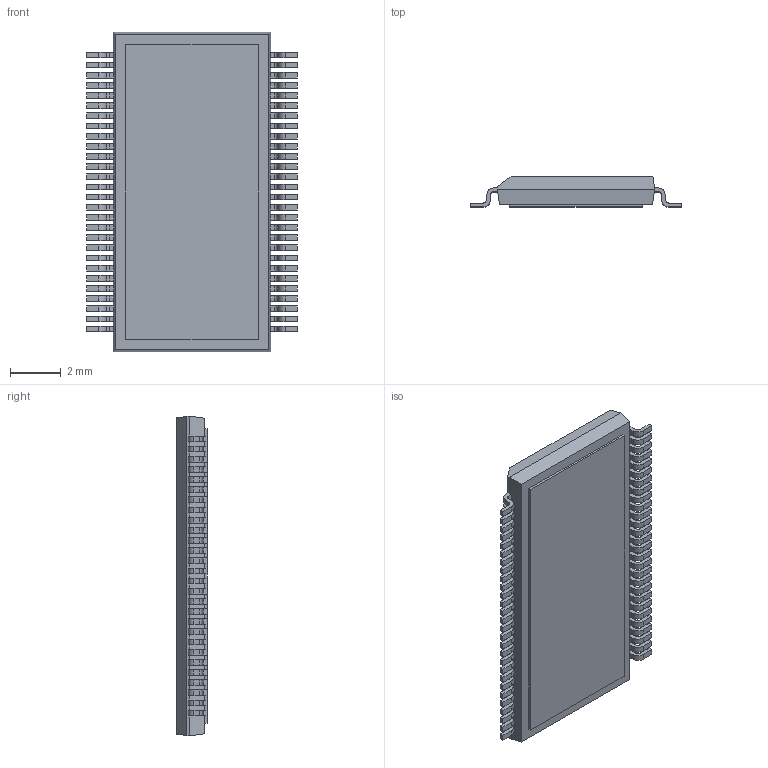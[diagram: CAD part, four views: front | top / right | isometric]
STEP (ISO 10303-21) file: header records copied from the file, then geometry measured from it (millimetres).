
FILE_DESCRIPTION (( 'STEP AP214' ), '1' );
FILE_NAME ('TSSOP40P810X120-56TP_MO-153.FDT.STEP', '2014-10-29T08:25:53', ( 'Tester2' ), ( '' ), 'SwSTEP 2.0', 'SolidWorks 2012', '' );
FILE_SCHEMA (( 'AUTOMOTIVE_DESIGN' ));
Length unit declared in the file: millimetre
Products named in the file (1): TSSOP40P810X120-56TP_MO-153.FDT
Bounding box: 8.3 x 1.2 x 12.6 mm (x, y, z)
Volume: 92 mm3; surface area: 255 mm2
Topology: 1 solids, 1 shells, 747 faces, 2225 edges, 1482 vertices
Faces by surface type: plane 521, cylinder 226
Entity records: 33109 total; most frequent: CARTESIAN_POINT 4455, ORIENTED_EDGE 4450, DIRECTION 4173, EDGE_CURVE 2225, VECTOR 1773, LINE 1773, VERTEX_POINT 1482, AXIS2_PLACEMENT_3D 1200
